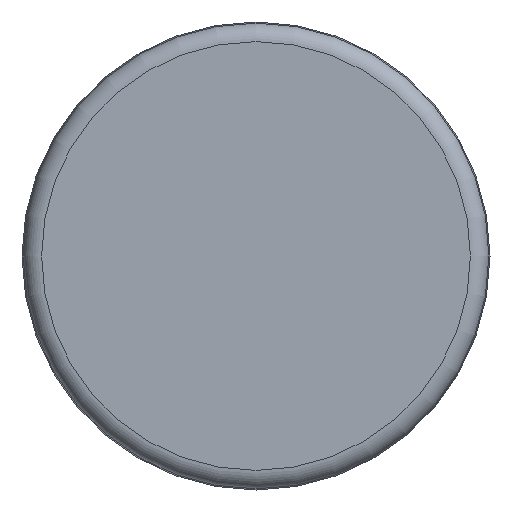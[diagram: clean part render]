
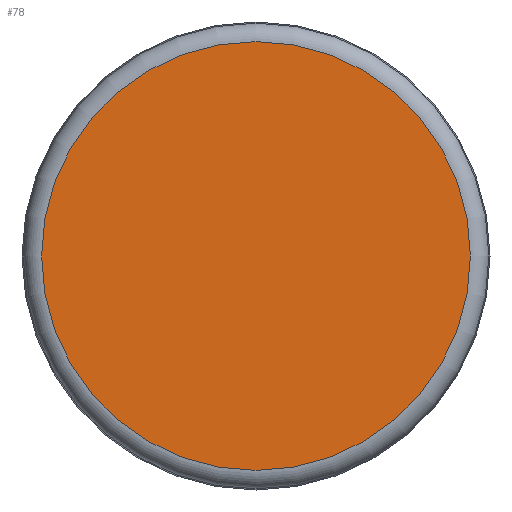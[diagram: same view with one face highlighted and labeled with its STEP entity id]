
A CAD part, front view. The second image highlights one B-rep face of the part: STEP entity #78.
In plain terms, the highlighted planar face has unit normal (0, -1, 0).
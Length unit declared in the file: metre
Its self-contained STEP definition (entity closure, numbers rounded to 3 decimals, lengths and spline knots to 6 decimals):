
#78 = ADVANCED_FACE( '', ( #93 ), #94, .T. );
#93 = FACE_OUTER_BOUND( '', #124, .T. );
#94 = PLANE( '', #125 );
#124 = EDGE_LOOP( '', ( #157 ) );
#125 = AXIS2_PLACEMENT_3D( '', #158, #159, #160 );
#157 = ORIENTED_EDGE( '', *, *, #206, .T. );
#158 = CARTESIAN_POINT( '', ( 0., 0., 0. ) );
#159 = DIRECTION( '', ( 0., -1., 0. ) );
#160 = DIRECTION( '', ( 0., 0., -1. ) );
#206 = EDGE_CURVE( '', #217, #217, #218, .T. );
#217 = VERTEX_POINT( '', #237 );
#218 = CIRCLE( '', #238, 0.028859 );
#237 = CARTESIAN_POINT( '', ( 0., 0., -0.028859 ) );
#238 = AXIS2_PLACEMENT_3D( '', #258, #259, #260 );
#258 = CARTESIAN_POINT( '', ( 0., 0., 0. ) );
#259 = DIRECTION( '', ( 0., -1., 0. ) );
#260 = DIRECTION( '', ( 0., 0., -1. ) );
